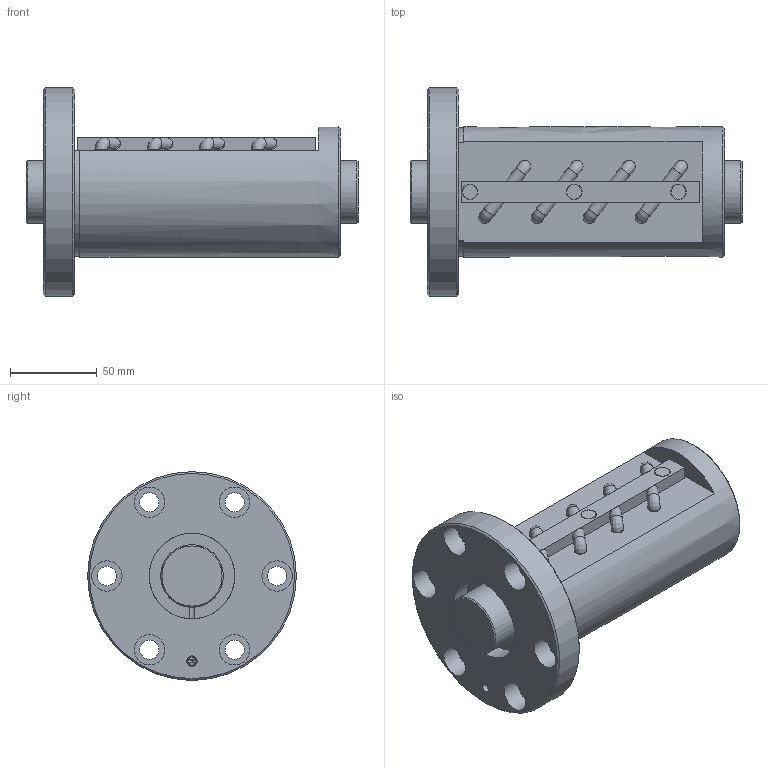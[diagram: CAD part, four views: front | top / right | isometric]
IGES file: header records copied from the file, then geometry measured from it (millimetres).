
Start section: Data from Parasolid IGES Translator 26.0.171, Copyright(c) 2006 Siemens PLM Software. All Rights Reserved.
Global section: file name: BIF3610V-10RRG0+191LC0_000.igs; native system: By Siemens PLM Incorporated; preprocessor: XPlus GENERIC/IGES 26.0.171; author: Noname; organization: Noname; date: 20240715.082334; units: millimetre
Bounding box: 191 x 120 x 120 mm (x, y, z)
Surface area: 114872.7 mm2 (no closed solid volume)
Topology: 0 solids, 0 shells, 130 faces, 597 edges, 556 vertices
Faces by surface type: revolution 77, extrusion 53
